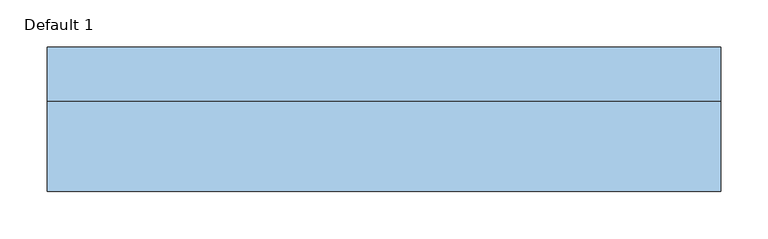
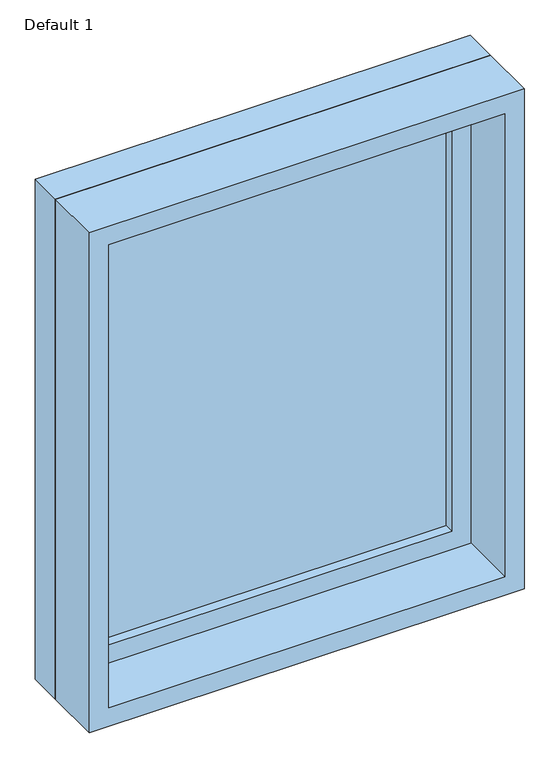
"""IFC4 building model written with IfcOpenShell, lengths in millimetres: window geometry, Planitar-Fixed : Default 1."""

from ifc_helpers import new_model, si_unit, frame, origin, place, context, project, spatial, polyline, outline, extrude, source, transform, mapped, element, save


def default_1_f0c9d7c5(model_context):
    return source(origin(), model_context, "Body", "SweptSolid", [
        extrude(outline(polyline([(1759.0, -336.6), (933.4, -336.6), (933.4, 336.6), (1759.0, 336.6), (1759.0, -336.6)]), holes=[polyline([(1715.0, -292.6), (1715.0, 292.6), (977.4, 292.6), (977.4, -292.6), (1715.0, -292.6)])]), frame((0.0, 32.5, 0.0), z_axis=(0.0, 1.0, 0.0), x_axis=(0.0, 0.0, 1.0)), (0.0, 0.0, 1.0), 44.0),
        extrude(outline(polyline([(1778.0, -355.6), (914.4, -355.6), (914.4, 355.6), (1778.0, 355.6), (1778.0, -355.6)]), holes=[polyline([(1759.0, -336.6), (1759.0, 336.6), (933.4, 336.6), (933.4, -336.6), (1759.0, -336.6)])]), frame((0.0, 32.5, 0.0), z_axis=(0.0, 1.0, 0.0), x_axis=(0.0, 0.0, 1.0)), (0.0, 0.0, 1.0), 56.7),
        extrude(outline(polyline([(1778.0, -355.6), (914.4, -355.6), (914.4, 355.6), (1778.0, 355.6), (1778.0, -355.6)]), holes=[polyline([(1746.0, -323.6), (1746.0, 323.6), (946.4, 323.6), (946.4, -323.6), (1746.0, -323.6)])]), frame((0.0, -63.2, 0.0), z_axis=(0.0, 1.0, 0.0), x_axis=(0.0, 0.0, 1.0)), (0.0, 0.0, 1.0), 95.7),
        extrude(outline(polyline([(-292.6, 60.5), (292.6, 60.5), (292.6, 48.5), (-292.6, 48.5), (-292.6, 60.5)])), frame((0.0, 0.0, 977.4), z_axis=(0.0, 0.0, 1.0), x_axis=(1.0, 0.0, 0.0)), (0.0, 0.0, 1.0), 737.6),
    ])


if __name__ == "__main__":
    model = new_model("IFC4")
    model_context = context("Model", 3, world=origin())
    ifc_project = project(units=[si_unit("LENGTHUNIT", "METRE", prefix="MILLI")], contexts=[model_context])
    site = spatial("IfcSite", under=ifc_project)
    building = spatial("IfcBuilding", under=site)
    placement = place(None, origin())
    default_1_shape = default_1_f0c9d7c5(model_context)
    element("IfcWindow", 1, ObjectType="Planitar-Fixed : Default 1", at=placement, inside=building, context=model_context, shape_type="MappedRepresentation", body=[
        mapped(default_1_shape, transform((0.0, 0.0, 0.0), x_axis=(1.0, 0.0, 0.0), y_axis=(0.0, 1.0, 0.0), z_axis=(0.0, 0.0, 1.0))),
    ])
    save(model, "model.ifc")
